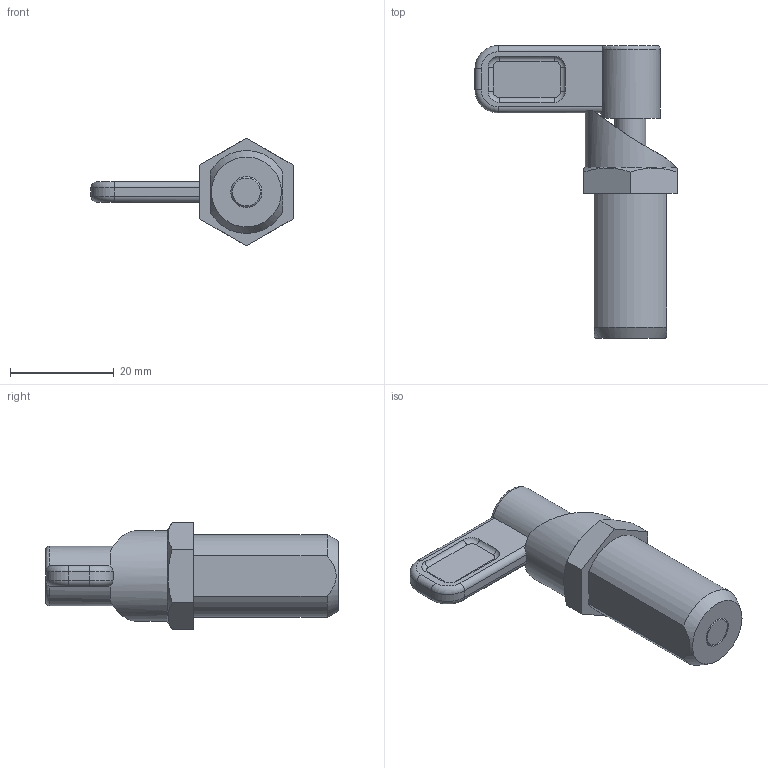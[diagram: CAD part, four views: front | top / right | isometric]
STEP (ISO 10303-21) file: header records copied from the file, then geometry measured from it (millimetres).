
FILE_DESCRIPTION( ( 'STEP AP203' ), '1' );
FILE_NAME( 'C:/Temp/Ganter_Step_05_03_2020/data/3_1/gn_612.8/gn612_8_a/Indexing plunger GN 612.8-6-M16x1,5-A (activated).stp', '2020-03-12T09:12:18', ( 'License CC BY-ND 4.0' ), ( 'CADENAS' ), ' ', 'PARTsolutions', ' ' );
FILE_SCHEMA( ( 'CONFIG_CONTROL_DESIGN' ) );
Length unit declared in the file: millimetre
Products named in the file (3): Indexing plunger GN 612.8-6-M16x1,5-A (activated); _Indexing plunger GN 612.8-6-M16x1,5-A (2)_2; _Rastriegel GN 612.8-6-M16x1,5-A (2)_1
Assembly tree (2 placements, depth 2):
  Indexing plunger GN 612.8-6-M16x1,5-A (activated)
    _Indexing plunger GN 612.8-6-M16x1,5-A (2)_2
    _Rastriegel GN 612.8-6-M16x1,5-A (2)_1
Bounding box: 39 x 56.5 x 20.78 mm (x, y, z)
Volume: 9965.9 mm3; surface area: 5702.2 mm2
Topology: 2 solids, 2 shells, 74 faces, 172 edges, 111 vertices
Faces by surface type: cylinder 31, plane 27, torus 13, cone 3
Full cylindrical faces by diameter (mm): 6 x4, 7 x2, 11.5 x1, 12.5 x1, 17.5 x1
Entity records: 2470 total; most frequent: CARTESIAN_POINT 710, DIRECTION 362, ORIENTED_EDGE 316, EDGE_CURVE 158, AXIS2_PLACEMENT_3D 152, VERTEX_POINT 108, EDGE_LOOP 96, FACE_OUTER_BOUND 82
